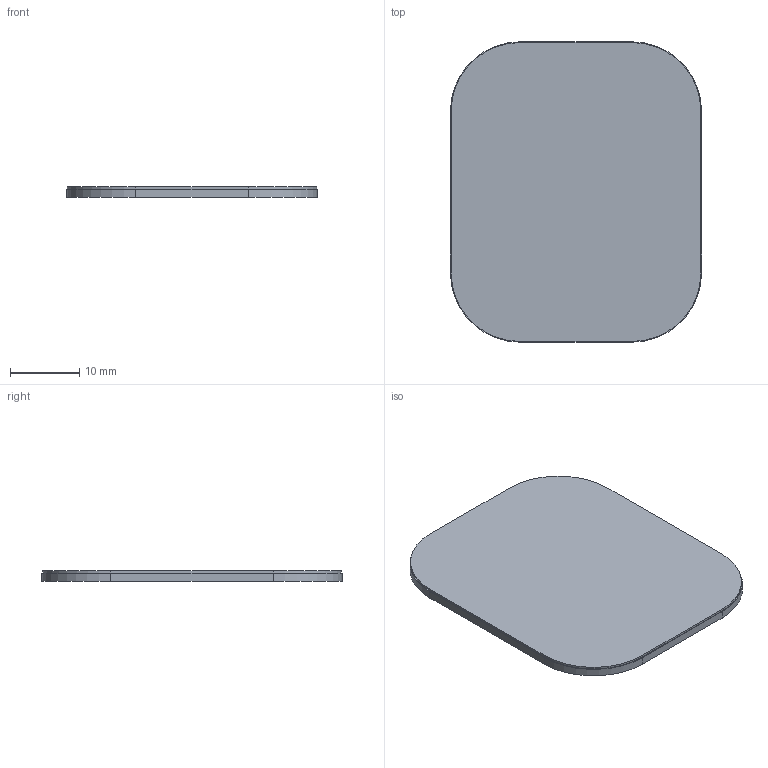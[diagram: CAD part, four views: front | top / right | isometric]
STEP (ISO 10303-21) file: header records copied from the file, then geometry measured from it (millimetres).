
FILE_DESCRIPTION(('FreeCAD Model'),'2;1');
FILE_NAME('Open CASCADE Shape Model','2026-09-21T09:16:45',('FreeCAD'),( 'FreeCAD'),'Open CASCADE STEP processor 7.8','FreeCAD','Unknown');
FILE_SCHEMA(('AUTOMOTIVE_DESIGN { 1 0 10303 214 1 1 1 1 }'));
Length unit declared in the file: millimetre
Products named in the file (1): Open CASCADE STEP translator 7.8 2
Bounding box: 36.33 x 43.45 x 1.46 mm (x, y, z)
Volume: 2175.1 mm3; surface area: 6150.1 mm2
Topology: 2 solids, 2 shells, 20 faces, 48 edges, 32 vertices
Faces by surface type: plane 12, cylinder 8
Entity records: 596 total; most frequent: DIRECTION 106, CARTESIAN_POINT 101, ORIENTED_EDGE 96, EDGE_CURVE 48, AXIS2_PLACEMENT_3D 37, VERTEX_POINT 32, LINE 32, VECTOR 32
